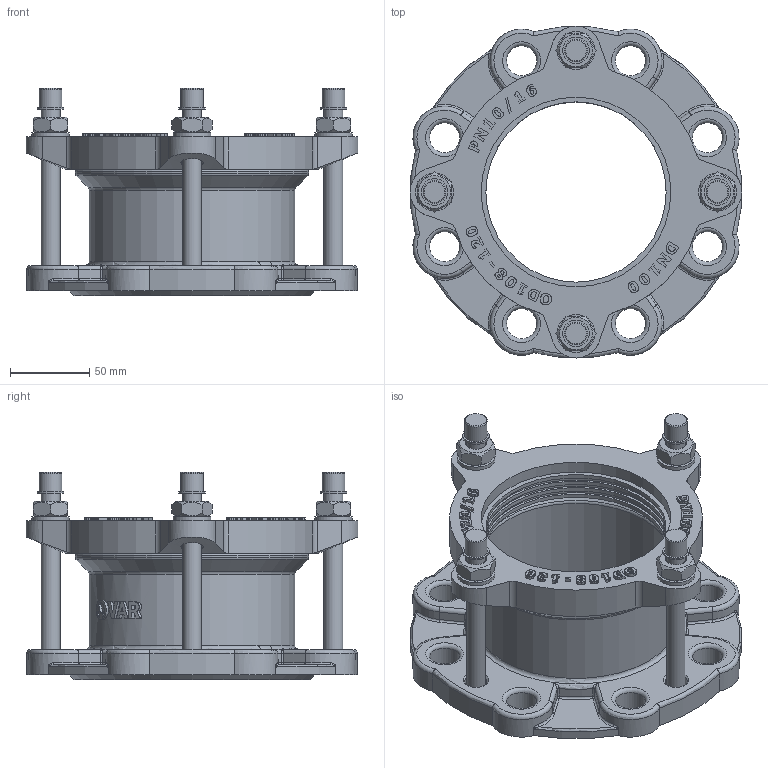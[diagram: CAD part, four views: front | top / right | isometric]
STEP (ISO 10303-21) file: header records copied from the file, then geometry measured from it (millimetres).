
FILE_DESCRIPTION(('STEP AP203'), '1');
FILE_NAME('Ôëàíöåâûé àäàïòåð', '', ('UNSPECIFIED'), ('UNSPECIFIED'), 'C3D Converter', 'C3D Toolkit', '');
FILE_SCHEMA(('CONFIG_CONTROL_DESIGN'));
Length unit declared in the file: millimetre
Assembly tree (19 placements, depth 2):
  (unnamed)
    (unnamed)
    (unnamed)  x4
    (unnamed)  x4
    (unnamed)  x4
    (unnamed)  x4
    (unnamed)
    (unnamed)
Bounding box: 210 x 210 x 131.2 mm (x, y, z)
Volume: 765737.8 mm3; surface area: 243694.1 mm2
Topology: 19 solids, 19 shells, 1007 faces, 2518 edges, 1562 vertices
Faces by surface type: plane 326, extrusion 320, cylinder 202, torus 71, cone 32, bspline 32, sphere 24
Full cylindrical faces by diameter (mm): 12 x12, 12.253 x1, 13 x4, 14 x8, 14.4 x4, 16.8 x4, 19 x8, 24 x4, 114 x5, 117 x3, 120 x2, 125 x1, 130 x2, 147.5 x1, 150 x2
Entity records: 38516 total; most frequent: CARTESIAN_POINT 14191, ORIENTED_EDGE 4306, DIRECTION 3275, EDGE_CURVE 2153, VERTEX_POINT 1406, VECTOR 1243, B_SPLINE_CURVE_WITH_KNOTS 1062, EDGE_LOOP 1061
